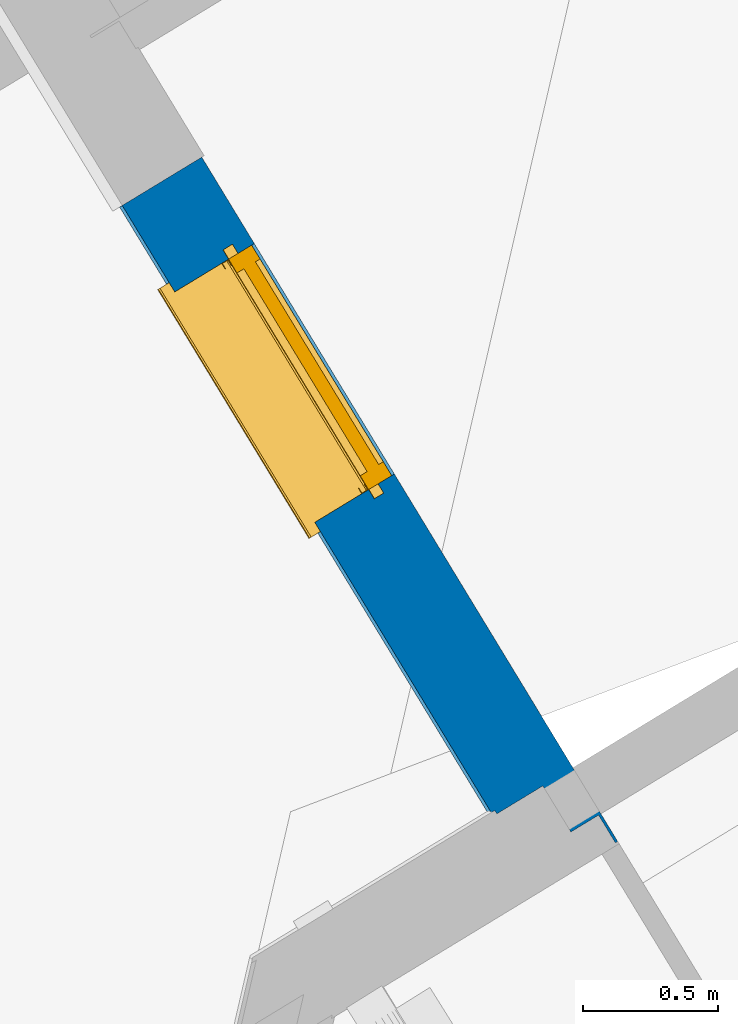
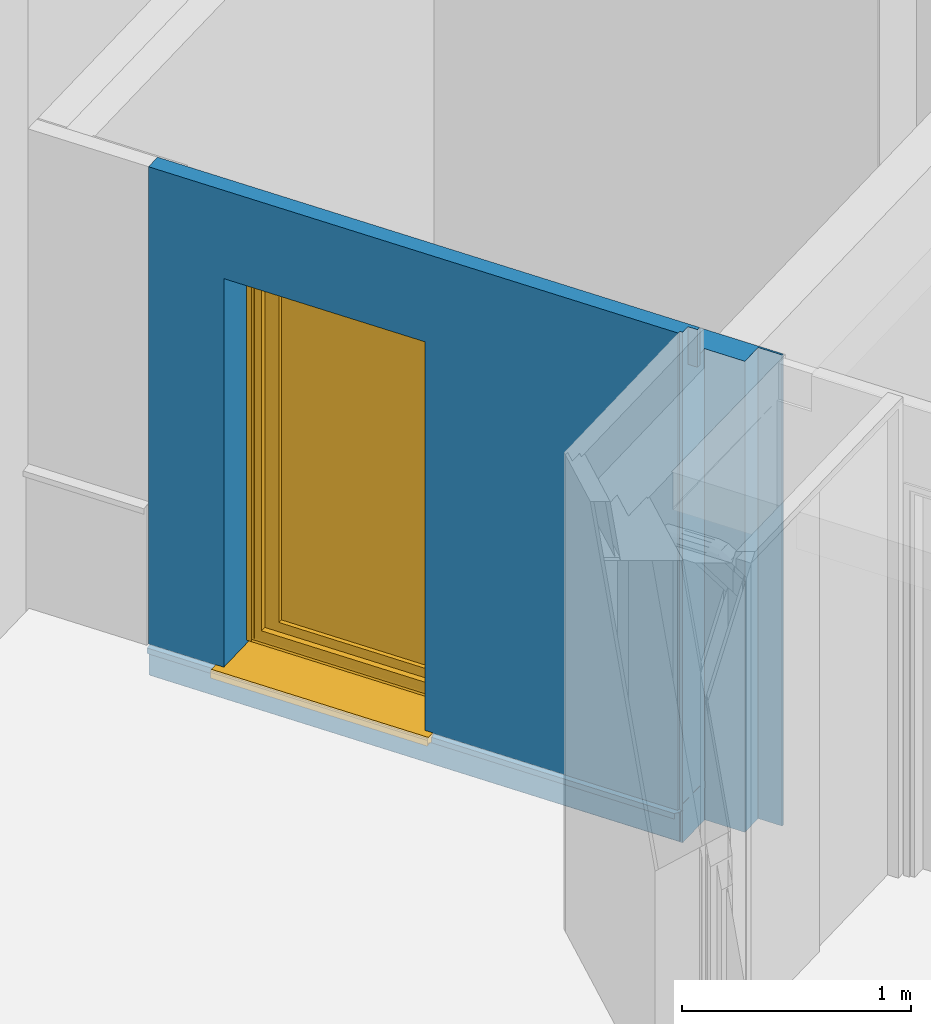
# One storey, part 31 of 119: 1 wall, 1 window, 1 opening.
"""IFC2X3 building model written with IfcOpenShell, lengths in metres."""

from ifc_helpers import new_model, entity, si_unit, converted_unit, derived_unit, money_unit, direction, frame, origin_with_axes, place, context, subcontext, project, spatial, open_shell, faceted_brep, surface_model, source, transform, mapped, material, material_list, type_object, element, fill, save


model = new_model("IFC2X3")

# Units and contexts
model_context = context("Model", 3, precision=1e-05, world=origin_with_axes(), true_north=direction((0.0, 1.0)))
body_context = subcontext(model_context, "Body", "Model", "MODEL_VIEW")
ifc_project = project(units=[si_unit("LENGTHUNIT", "METRE"), si_unit("AREAUNIT", "SQUARE_METRE"), si_unit("VOLUMEUNIT", "CUBIC_METRE"), converted_unit("PLANEANGLEUNIT", "DEGREE", entity("IfcPlaneAngleMeasure", 0.0174532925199), si_unit("PLANEANGLEUNIT", "RADIAN"), dimensions=[0, 0, 0, 0, 0, 0, 0]), si_unit("SOLIDANGLEUNIT", "STERADIAN"), money_unit("EUR"), converted_unit("TIMEUNIT", "Year", entity("IfcTimeMeasure", 31556926.0), si_unit("TIMEUNIT", "SECOND"), dimensions=[0, 0, 1, 0, 0, 0, 0]), si_unit("MASSUNIT", "GRAM", prefix="KILO"), si_unit("THERMODYNAMICTEMPERATUREUNIT", "DEGREE_CELSIUS"), si_unit("LUMINOUSINTENSITYUNIT", "LUMEN"), si_unit("ENERGYUNIT", "JOULE", prefix="MEGA"), derived_unit("THERMALCONDUCTANCEUNIT", [(si_unit("POWERUNIT", "WATT"), 1), (si_unit("LENGTHUNIT", "METRE"), -1), (si_unit("THERMODYNAMICTEMPERATUREUNIT", "KELVIN"), -1)]), derived_unit("SPECIFICHEATCAPACITYUNIT", [(si_unit("ENERGYUNIT", "JOULE"), 1), (si_unit("MASSUNIT", "GRAM", prefix="KILO"), -1), (si_unit("THERMODYNAMICTEMPERATUREUNIT", "KELVIN"), -1)]), derived_unit("MASSDENSITYUNIT", [(si_unit("MASSUNIT", "GRAM", prefix="KILO"), 1), (si_unit("VOLUMEUNIT", "CUBIC_METRE"), -1)])], contexts=[model_context])

# Site, building, storey
site_placement = place(None, origin_with_axes())
site = spatial("IfcSite", under=ifc_project, at=site_placement, Name="Site", CompositionType="ELEMENT")
building_placement = place(site_placement, origin_with_axes())
building = spatial("IfcBuilding", under=site, at=building_placement, Name="Bâtiment", CompositionType="ELEMENT")
storey_placement = place(building_placement, origin_with_axes())
storey = spatial("IfcBuildingStorey", under=building, at=storey_placement, Name="Rez-de-chaussée", CompositionType="ELEMENT", Elevation=0.0)

# Wall, opening, window
ifc_material_1 = material(Name="Finition int - Plaque de plâtre")
ifc_material_2 = material(Name="Isolation - Polystyrène extrudé")
ifc_material_3 = material(Name="Bloc ELITHERM")
ifc_material_4 = material(Name="Isolation - Polystyrène expansé")
ifc_material_5 = material(Name="Mortier")
ifc_material_6 = material(Name="Béton cellulaire")
ifc_material_7 = material(Name="Etanchéité - Bitume")
ifc_material_8 = material(Name="Finition ext - Crépis")
ifc_material_9 = material(Name="Métal - Aluminium")
ifc_material_list = material_list([ifc_material_1, ifc_material_2, ifc_material_3, ifc_material_4, ifc_material_5, ifc_material_6, ifc_material_7, ifc_material_8, ifc_material_9])
wall_type = type_object("IfcWallType", Name="Mur ALKERN + planelle 21 TERRASSE RDC 356 x 2720", PredefinedType="USERDEFINED")
wall_placement = place(storey_placement, frame((-7.34728944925, 20.4224753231, 0.0), z_axis=(0.0, 0.0, 1.0), x_axis=(0.519386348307, -0.854539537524, 0.0)))
wall = element("IfcWall", 1, at=wall_placement, inside=storey, type_object=wall_type, material=ifc_material_list, Name="Mue bloc ALKERN isolé", ObjectType="SOLIDWALL", context=body_context, shape_type="Brep", body=[
    faceted_brep([(2.9696324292, 0.359999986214, 0.0), (0.0, 0.359999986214, 0.0), (0.0, 0.359999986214, 2.50955001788), (2.9696324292, 0.359999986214, 2.50955001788), (0.37500000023, 0.359999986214, 2.43), (0.37500000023, 0.359999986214, 2.25), (0.37500000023, 0.359999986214, 0.2), (1.37500000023, 0.359999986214, 0.2), (1.37500000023, 0.359999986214, 2.25), (1.37500000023, 0.359999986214, 2.43), (2.9696324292, 0.350000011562, 0.0), (0.0, 0.350000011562, 0.0), (0.0, 0.350000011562, 2.50955001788), (2.9696324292, 0.350000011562, 2.50955001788), (0.37500000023, 0.350000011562, 2.43), (0.37500000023, 0.350000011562, 2.25), (0.37500000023, 0.350000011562, 0.2), (1.37500000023, 0.350000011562, 0.2), (1.37500000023, 0.350000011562, 2.25), (1.37500000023, 0.350000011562, 2.43)], [[[0, 1, 2, 3], [4, 5, 6, 7, 8, 9]], [[10, 11, 1, 0]], [[12, 2, 1, 11]], [[3, 2, 12, 13]], [[13, 10, 0, 3]], [[5, 4, 14, 15, 16, 6]], [[6, 16, 17, 7]], [[18, 19, 9, 8, 7, 17]], [[4, 9, 19, 14]], [[11, 10, 13, 12], [19, 18, 17, 16, 15, 14]]]),
    faceted_brep([(0.37500000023, 0.289560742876, 0.2), (1.37500000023, 0.289560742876, 0.2), (1.37500000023, 0.350000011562, 0.2), (0.37500000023, 0.350000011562, 0.2), (0.37500000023, 0.289560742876, 0.14), (1.37500000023, 0.289560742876, 0.14), (1.37500000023, 0.22999997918, 0.14), (1.37500000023, 0.22999997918, 0.2), (1.37500000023, 0.22999997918, 2.25), (1.37500000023, 0.22999997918, 2.43), (1.37500000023, 0.350000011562, 2.43), (1.37500000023, 0.350000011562, 2.25), (0.0, 0.350000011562, 2.50955001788), (2.84963239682, 0.350000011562, 2.50955001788), (2.84963239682, 0.350000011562, 0.0), (0.0, 0.350000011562, 0.0), (0.37500000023, 0.350000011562, 2.43), (0.37500000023, 0.350000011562, 2.25), (0.37500000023, 0.22999997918, 0.2), (0.37500000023, 0.22999997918, 0.14), (0.37500000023, 0.22999997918, 2.43), (0.37500000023, 0.22999997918, 2.25), (2.84963239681, 0.22999997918, 2.50955001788), (0.0, 0.22999997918, 2.50955001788), (0.0, 0.22999997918, 0.0), (2.84963239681, 0.22999997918, 0.0)], [[[0, 1, 2, 3]], [[1, 0, 4, 5]], [[1, 5, 6, 7, 8, 9, 10, 11, 2]], [[12, 13, 14, 15], [2, 11, 10, 16, 17, 3]], [[18, 19, 4, 0, 3, 17, 16, 20, 21]], [[19, 6, 5, 4]], [[22, 23, 24, 25], [19, 18, 21, 20, 9, 8, 7, 6]], [[10, 9, 20, 16]], [[23, 22, 13, 12]], [[14, 13, 22, 25]], [[15, 14, 25, 24]], [[24, 23, 12, 15]]]),
    faceted_brep([(2.64963241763, 0.229999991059, 2.50955001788), (2.64963241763, 0.229999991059, 0.207793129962), (2.65067779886, 0.229999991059, 0.207793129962), (2.65067779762, 0.229999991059, 0.169727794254), (2.64963241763, 0.229999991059, 0.169414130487), (2.64963242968, 0.229999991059, 0.160000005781), (2.64963241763, 0.229999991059, 0.0), (0.0, 0.229999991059, 0.0), (0.0, 0.229999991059, 2.50955001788), (0.37500000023, 0.229999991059, 0.14), (1.37500000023, 0.229999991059, 0.14), (1.37500000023, 0.229999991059, 0.2), (1.37500000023, 0.229999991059, 2.25), (1.37500000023, 0.229999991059, 2.43), (0.37500000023, 0.229999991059, 2.43), (0.37500000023, 0.229999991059, 2.25), (0.37500000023, 0.229999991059, 0.2), (2.64963241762, 0.03, 2.50955001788), (2.64963241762, 0.03, 0.207793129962), (2.64963241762, 0.0310453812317, 0.207793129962), (2.64963241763, 0.0979999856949, 2.50955001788), (2.65067779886, 0.0310453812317, 0.207793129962), (2.65067779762, 0.0310453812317, 0.169727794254), (2.64963241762, 0.03, 0.169414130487), (2.64963242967, 0.0300000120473, 0.160000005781), (2.64963241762, 0.03, 0.0), (0.0, 0.03, 0.0), (0.0, 0.0300000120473, 0.160000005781), (0.0, 0.03, 0.169414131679), (0.0, 0.0310453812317, 0.169727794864), (0.0, 0.0310453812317, 0.207793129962), (0.0, 0.03, 0.207793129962), (0.0, 0.03, 2.50955001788), (0.0, 0.0979999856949, 2.50955001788), (0.37500000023, 0.0300000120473, 0.14), (1.37500000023, 0.0300000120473, 0.14), (1.37500000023, 0.0300000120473, 0.160000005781), (1.37500000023, 0.03, 0.16941413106), (1.37500000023, 0.0310453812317, 0.169727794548), (1.37500000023, 0.0310453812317, 0.2), (1.37500000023, 0.0310453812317, 0.207793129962), (1.37500000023, 0.03, 0.207793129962), (1.37500000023, 0.03, 2.25), (1.37500000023, 0.218560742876, 2.25), (1.37500000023, 0.218560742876, 2.43), (0.37500000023, 0.218560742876, 2.43), (0.37500000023, 0.0310453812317, 0.2), (0.37500000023, 0.0310453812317, 0.169727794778), (0.37500000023, 0.03, 0.16941413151), (0.37500000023, 0.0300000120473, 0.160000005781), (0.37500000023, 0.218560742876, 2.25), (0.37500000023, 0.03, 2.25), (0.37500000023, 0.03, 0.207793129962), (0.37500000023, 0.0310453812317, 0.207793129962)], [[[0, 1, 2, 3, 4, 5, 6, 7, 8], [9, 10, 11, 12, 13, 14, 15, 16]], [[17, 18, 19, 1, 0, 20]], [[19, 21, 2, 1]], [[2, 21, 22, 3]], [[3, 22, 23, 4]], [[23, 24, 5, 4]], [[6, 5, 24, 25]], [[6, 25, 26, 7]], [[27, 28, 29, 30, 31, 32, 33, 8, 7, 26]], [[33, 20, 0, 8]], [[10, 9, 34, 35]], [[11, 10, 35, 36, 37, 38, 39, 40, 41, 42, 43, 44, 13, 12]], [[13, 44, 45, 14]], [[46, 47, 48, 49, 34, 9, 16, 15, 14, 45, 50, 51, 52, 53]], [[18, 17, 32, 31, 52, 51, 42, 41]], [[19, 18, 41, 40]], [[32, 17, 20, 33]], [[39, 38, 22, 21, 19, 40]], [[38, 37, 23, 22]], [[37, 36, 24, 23]], [[34, 49, 27, 26, 25, 24, 36, 35]], [[49, 48, 28, 27]], [[48, 47, 29, 28]], [[47, 46, 53, 30, 29]], [[31, 30, 53, 52]], [[43, 42, 51, 50]], [[50, 45, 44, 43]]]),
    faceted_brep([(0.0, 0.0780000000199, 2.72), (2.69763241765, 0.0780000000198, 2.72), (2.69763241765, 0.0980000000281, 2.72), (0.0, 0.0980000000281, 2.72), (0.0, 0.0780000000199, 2.51999999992), (2.69763241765, 0.0780000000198, 2.51999999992), (2.69763241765, 0.0980000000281, 2.51999999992), (0.0, 0.0980000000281, 2.51999999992)], [[[0, 1, 2, 3]], [[4, 5, 1, 0]], [[5, 6, 2, 1]], [[3, 2, 6, 7]], [[3, 7, 4, 0]], [[7, 6, 5, 4]]]),
    faceted_brep([(2.64963241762, 0.03, 2.52), (2.64963241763, 0.098, 2.52), (0.0, 0.098, 2.52), (0.0, 0.03, 2.52), (2.64963241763, 0.098, 2.50955), (2.64963241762, 0.03, 2.50955), (0.0, 0.098, 2.50955), (0.0, 0.03, 2.50955)], [[[0, 1, 2, 3]], [[4, 1, 0, 5]], [[1, 4, 6, 2]], [[7, 3, 2, 6]], [[5, 0, 3, 7]], [[4, 5, 7, 6]]]),
    faceted_brep([(2.64963241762, 0.03, 2.72), (2.64963241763, 0.0780000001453, 2.72), (0.0, 0.0780000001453, 2.72), (0.0, 0.03, 2.72), (2.64963241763, 0.0780000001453, 2.51999999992), (2.64963241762, 0.03, 2.51999999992), (0.0, 0.0780000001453, 2.51999999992), (0.0, 0.03, 2.51999999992)], [[[0, 1, 2, 3]], [[4, 1, 0, 5]], [[1, 4, 6, 2]], [[3, 2, 6, 7]], [[5, 0, 3, 7]], [[4, 5, 7, 6]]]),
    faceted_brep([(0.37500000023, 0.0300001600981, 0.14), (1.37500000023, 0.030000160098, 0.14), (1.37500000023, 0.0300000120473, 0.160000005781), (2.63963241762, 0.0300000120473, 0.160000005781), (2.63963241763, 0.030000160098, 0.01), (0.0, 0.0300000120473, 0.01), (0.0, 0.0300000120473, 0.160000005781), (0.37500000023, 0.0300000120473, 0.160000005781), (0.37500000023, 0.02, 0.14), (1.37500000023, 0.02, 0.14), (1.37500000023, 0.02, 0.160000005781), (2.63963241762, 0.02, 0.160000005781), (2.63963241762, 0.02, 0.01), (0.0, 0.02, 0.01), (0.0, 0.02, 0.160000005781), (0.37500000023, 0.02, 0.160000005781)], [[[0, 1, 2, 3, 4, 5, 6, 7]], [[1, 0, 8, 9]], [[10, 2, 1, 9]], [[2, 10, 11, 3]], [[4, 3, 11, 12]], [[4, 12, 13, 5]], [[13, 14, 6, 5]], [[15, 7, 6, 14]], [[0, 7, 15, 8]], [[8, 15, 14, 13, 12, 11, 10, 9]]]),
    faceted_brep([(0.37500000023, 0.0150000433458, 0.2), (0.37500000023, 0.0150000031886, 0.176532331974), (0.37500000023, 0.0300000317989, 0.176532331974), (0.37500000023, 0.0300000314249, 0.2), (0.37500000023, 0.0299999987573, 2.25), (0.37500000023, 0.0150000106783, 2.25), (1.37500000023, 0.0150000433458, 0.2), (1.37500000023, 0.0150000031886, 0.176532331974), (2.63463242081, 0.0150000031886, 0.176532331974), (2.63463242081, 0.0150000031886, 2.72), (0.0, 0.0150000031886, 2.72), (0.0, 0.0150000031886, 0.176532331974), (1.37500000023, 0.0150000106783, 2.25), (0.0, 0.0300000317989, 0.176532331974), (1.37500000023, 0.0300000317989, 0.176532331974), (1.37500000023, 0.0300000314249, 0.2), (1.37500000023, 0.0299999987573, 2.25), (0.0, 0.0299999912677, 2.72), (2.63463242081, 0.0299999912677, 2.72), (2.63463242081, 0.0300000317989, 0.176532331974)], [[[0, 1, 2, 3, 4, 5]], [[6, 7, 8, 9, 10, 11, 1, 0, 5, 12]], [[2, 1, 11, 13]], [[14, 15, 16, 4, 3, 2, 13, 17, 18, 19]], [[16, 12, 5, 4]], [[15, 14, 7, 6, 12, 16]], [[7, 14, 19, 8]], [[9, 8, 19, 18]], [[18, 17, 10, 9]], [[10, 17, 13, 11]]]),
    faceted_brep([(1.37500000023, 0.0310453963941, 0.169727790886), (1.37500000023, 0.0310453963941, 0.2), (1.37500000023, 0.0310453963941, 0.207793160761), (2.64963241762, 0.0310453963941, 0.207793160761), (2.64963244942, 0.0310453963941, 0.176532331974), (2.64963241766, 0.0310453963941, 0.17077486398), (2.6461029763, 0.0310453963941, 0.169727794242), (1.37500000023, 0.0300000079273, 0.2), (1.37500000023, 0.03, 0.169414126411), (1.37500000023, 0.00479482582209, 0.161852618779), (1.37500000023, 0.00479482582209, 0.14), (1.37500000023, 0.0035607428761, 0.14), (1.37500000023, 0.0035607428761, 0.162931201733), (1.37500000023, 0.03, 0.170774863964), (1.37500000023, 0.0300000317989, 0.176532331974), (1.37500000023, 0.03, 0.207793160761), (2.64963241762, 0.03, 0.207793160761), (2.64963244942, 0.0300000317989, 0.176532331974), (2.64963241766, 0.03, 0.17077486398), (2.64504565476, 0.0254132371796, 0.169414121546), (2.64504565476, 0.03, 0.169414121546), (2.6231931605, 0.00839012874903, 0.162931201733), (2.6231931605, 0.00479482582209, 0.161852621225), (2.6231931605, 0.00479482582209, 0.160000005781), (2.6231931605, 0.00479482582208, 0.133633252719), (0.0, 0.00479482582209, 0.133633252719), (0.0, 0.00479482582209, 0.161852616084), (0.37500000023, 0.00479482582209, 0.161852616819), (0.37500000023, 0.00479482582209, 0.14), (0.37500000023, 0.0035607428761, 0.14), (0.37500000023, 0.0035607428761, 0.162931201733), (0.0, 0.0035607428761, 0.162931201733), (0.0, 0.0035607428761, 0.133633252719), (2.6231931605, 0.0035607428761, 0.133633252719), (2.6231931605, 0.0035607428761, 0.160000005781), (2.6231931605, 0.0035607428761, 0.162931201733), (0.0, 0.03, 0.207793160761), (0.0, 0.0310453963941, 0.207793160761), (0.0, 0.0310453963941, 0.169727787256), (0.0, 0.03, 0.169414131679), (0.0, 0.03, 0.170774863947), (0.0, 0.0300000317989, 0.176532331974), (0.37500000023, 0.03, 0.169414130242), (0.37500000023, 0.0310453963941, 0.169727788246), (0.37500000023, 0.0310453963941, 0.2), (0.37500000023, 0.0300000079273, 0.2), (0.37500000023, 0.0300000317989, 0.176532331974), (0.37500000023, 0.03, 0.170774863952), (0.37500000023, 0.0310453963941, 0.207793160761), (0.37500000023, 0.03, 0.207793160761)], [[[0, 1, 2, 3, 4, 5, 6]], [[7, 1, 0, 8, 9, 10, 11, 12, 13, 14]], [[1, 7, 15, 2]], [[15, 16, 3, 2]], [[16, 17, 4, 3]], [[18, 5, 4, 17]], [[6, 5, 18, 19, 20]], [[8, 0, 6, 20]], [[9, 8, 20, 21, 22]], [[10, 9, 22, 23, 24, 25, 26, 27, 28]], [[10, 28, 29, 11]], [[29, 30, 31, 32, 33, 34, 35, 12, 11]], [[13, 12, 35, 19, 18]], [[14, 13, 18, 17]], [[7, 14, 17, 16, 15]], [[35, 21, 20, 19]], [[21, 35, 34, 23, 22]], [[33, 24, 23, 34]], [[33, 32, 25, 24]], [[36, 37, 38, 39, 26, 25, 32, 31, 40, 41]], [[42, 27, 26, 39]], [[43, 44, 45, 46, 47, 30, 29, 28, 27, 42]], [[30, 47, 40, 31]], [[48, 37, 36, 49]], [[44, 43, 38, 37, 48]], [[43, 42, 39, 38]], [[47, 46, 41, 40]], [[46, 45, 49, 36, 41]], [[45, 44, 48, 49]]]),
])
opening_placement = place(wall_placement, frame((0.87500000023, 0.0, 0.2), z_axis=(0.0, 0.0, 1.0), x_axis=(1.0, 0.0, 0.0)))
opening = element("IfcOpeningElement", 2, at=opening_placement, cuts=wall, Name="MEN 09", context=body_context, shape_type="Brep", body=[
    faceted_brep([(-0.5, 0.849999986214, 0.0), (0.5, 0.849999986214, 0.0), (0.5, 0.248560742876, 0.0), (-0.5, 0.248560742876, 0.0), (-0.5, 0.849999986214, 2.05), (0.5, 0.849999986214, 2.05), (0.5, 0.248560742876, 2.05), (-0.5, 0.248560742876, 2.05)], [[[0, 1, 2, 3]], [[0, 4, 5, 1]], [[1, 5, 6, 2]], [[3, 2, 6, 7]], [[4, 0, 3, 7]], [[5, 4, 7, 6]]]),
    faceted_brep([(-0.5, -0.352878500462, 0.0), (-0.5, -0.352878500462, 2.05), (-0.5, 0.248560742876, 2.05), (-0.5, 0.248560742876, 0.0), (0.5, -0.352878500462, 0.0), (0.5, -0.352878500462, 2.05), (0.5, 0.248560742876, 2.05), (0.5, 0.248560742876, 0.0)], [[[0, 1, 2, 3]], [[0, 4, 5, 1]], [[1, 5, 6, 2]], [[3, 2, 6, 7]], [[4, 0, 3, 7]], [[5, 4, 7, 6]]]),
    faceted_brep([(-0.5, -0.352878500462, 0.0), (-0.5, -0.352878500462, 2.05), (-0.5, 0.248560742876, 2.05), (-0.5, 0.248560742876, 0.0), (0.5, -0.352878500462, 0.0), (0.5, -0.352878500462, 2.05), (0.5, 0.248560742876, 2.05), (0.5, 0.248560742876, 0.0)], [[[0, 1, 2, 3]], [[0, 4, 5, 1]], [[1, 5, 6, 2]], [[3, 2, 6, 7]], [[4, 0, 3, 7]], [[5, 4, 7, 6]]]),
    faceted_brep([(-0.5, 0.819999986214, 2.05), (0.5, 0.819999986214, 2.05), (0.5, 0.218560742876, 2.05), (-0.5, 0.218560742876, 2.05), (-0.5, 0.819999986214, 2.23), (0.5, 0.819999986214, 2.23), (0.5, 0.218560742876, 2.23), (-0.5, 0.218560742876, 2.23)], [[[0, 1, 2, 3]], [[0, 4, 5, 1]], [[1, 5, 6, 2]], [[3, 2, 6, 7]], [[4, 0, 3, 7]], [[5, 4, 7, 6]]]),
    faceted_brep([(-0.5, -0.311878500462, 0.0), (0.5, -0.311878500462, 0.0), (0.5, 0.289560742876, 0.0), (-0.5, 0.289560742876, 0.0), (-0.5, -0.311878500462, -0.06), (0.5, -0.311878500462, -0.06), (0.5, 0.289560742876, -0.06), (-0.5, 0.289560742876, -0.06)], [[[0, 1, 2, 3]], [[0, 4, 5, 1]], [[1, 5, 6, 2]], [[3, 2, 6, 7]], [[4, 0, 3, 7]], [[5, 4, 7, 6]]]),
])
window_style = type_object("IfcWindowStyle", Name="Baie générique 2017 v2", ConstructionType="NOTDEFINED", OperationType="NOTDEFINED", ParameterTakesPrecedence=False, Sizeable=False)
shared_shape = source(origin_with_axes(), body_context, "Body", "SurfaceModel", [
    faceted_brep([(-0.5, 0.1, 0.0), (0.5, 0.1, 0.0), (0.5, 0.0, 0.0), (-0.5, 0.0, 0.0), (-0.5, 0.1, 2.05), (0.5, 0.1, 2.05), (-0.44, 0.1, 0.05), (0.44, 0.1, 0.05), (0.44, 0.1, 2.0), (-0.44, 0.1, 2.0), (0.5, 0.0, 2.05), (-0.5, 0.0, 2.05), (-0.44, 0.0, 0.05), (-0.44, 0.0, 2.0), (0.44, 0.0, 2.0), (0.44, 0.0, 0.05)], [[[0, 1, 2, 3]], [[0, 4, 5, 1], [6, 7, 8, 9]], [[1, 5, 10, 2]], [[3, 2, 10, 11], [12, 13, 14, 15]], [[4, 0, 3, 11]], [[5, 4, 11, 10]], [[7, 6, 12, 15]], [[8, 7, 15, 14]], [[9, 8, 14, 13]], [[6, 9, 13, 12]]]),
    faceted_brep([(0.44, 0.08, 2.0), (0.44, 0.08, 0.05), (-0.44, 0.08, 0.05), (-0.44, 0.08, 2.0), (0.37, 0.08, 1.93), (-0.37, 0.08, 1.93), (-0.37, 0.08, 0.1), (0.37, 0.08, 0.1), (0.44, 0.03, 2.0), (0.44, 0.03, 0.05), (-0.44, 0.03, 0.05), (-0.44, 0.03, 2.0), (0.37, 0.03, 1.93), (-0.37, 0.03, 1.93), (-0.37, 0.03, 0.1), (0.37, 0.03, 0.1)], [[[0, 1, 2, 3], [4, 5, 6, 7]], [[1, 0, 8, 9]], [[10, 2, 1, 9]], [[11, 3, 2, 10]], [[0, 3, 11, 8]], [[5, 4, 12, 13]], [[14, 6, 5, 13]], [[15, 7, 6, 14]], [[4, 7, 15, 12]], [[11, 10, 9, 8], [15, 14, 13, 12]]]),
    surface_model("IfcShellBasedSurfaceModel", [(-0.44, 0.08, 0.05), (-0.44, 0.055, 0.05), (-0.44, 0.055, 2.0), (-0.44, 0.08, 2.0)], [open_shell([[[0, 1, 2, 3]]])]),
    surface_model("IfcShellBasedSurfaceModel", [(0.44, 0.08, 0.05), (0.44, 0.055, 0.05), (0.44, 0.055, 2.0), (0.44, 0.08, 2.0)], [open_shell([[[0, 1, 2, 3]]])]),
    surface_model("IfcShellBasedSurfaceModel", [(-0.44, 0.08, 0.05), (-0.44, 0.055, 0.05), (0.44, 0.055, 0.05), (0.44, 0.08, 0.05)], [open_shell([[[0, 1, 2, 3]]])]),
    surface_model("IfcShellBasedSurfaceModel", [(-0.44, 0.08, 2.0), (-0.44, 0.055, 2.0), (0.44, 0.055, 2.0), (0.44, 0.08, 2.0)], [open_shell([[[0, 1, 2, 3]]])]),
    surface_model("IfcShellBasedSurfaceModel", [(-0.44, 0.055, 0.05), (-0.44, 0.03, 0.05), (-0.44, 0.03, 2.0), (-0.44, 0.055, 2.0)], [open_shell([[[0, 1, 2, 3]]])]),
    surface_model("IfcShellBasedSurfaceModel", [(0.44, 0.055, 0.05), (0.44, 0.03, 0.05), (0.44, 0.03, 2.0), (0.44, 0.055, 2.0)], [open_shell([[[0, 1, 2, 3]]])]),
    surface_model("IfcShellBasedSurfaceModel", [(-0.44, 0.055, 0.05), (-0.44, 0.03, 0.05), (0.44, 0.03, 0.05), (0.44, 0.055, 0.05)], [open_shell([[[0, 1, 2, 3]]])]),
    surface_model("IfcShellBasedSurfaceModel", [(-0.44, 0.055, 2.0), (-0.44, 0.03, 2.0), (0.44, 0.03, 2.0), (0.44, 0.055, 2.0)], [open_shell([[[0, 1, 2, 3]]])]),
    faceted_brep([(-0.37, 0.0575, 0.1), (0.37, 0.0575, 0.1), (0.37, 0.0525, 0.1), (-0.37, 0.0525, 0.1), (-0.37, 0.0575, 1.93), (0.37, 0.0575, 1.93), (0.37, 0.0525, 1.93), (-0.37, 0.0525, 1.93)], [[[0, 1, 2, 3]], [[0, 4, 5, 1]], [[1, 5, 6, 2]], [[3, 2, 6, 7]], [[4, 0, 3, 7]], [[5, 4, 7, 6]]]),
    faceted_brep([(-0.5, -0.03, 0.0), (-0.475, -0.03, 0.0), (-0.475, -0.03, 2.05), (-0.5, -0.03, 2.05), (-0.5, -0.002, 0.0), (-0.475, -0.002, 0.0), (-0.475, -0.004, 0.0), (-0.498, -0.004, 0.0), (-0.498, -0.028, 0.0), (-0.475, -0.028, 0.0), (-0.475, -0.028, 2.05), (-0.498, -0.028, 2.05), (-0.498, -0.004, 2.05), (-0.475, -0.004, 2.05), (-0.475, -0.002, 2.05), (-0.5, -0.002, 2.05)], [[[0, 1, 2, 3]], [[0, 4, 5, 6, 7, 8, 9, 1]], [[1, 9, 10, 2]], [[3, 2, 10, 11, 12, 13, 14, 15]], [[4, 0, 3, 15]], [[5, 4, 15, 14]], [[6, 5, 14, 13]], [[7, 6, 13, 12]], [[8, 7, 12, 11]], [[9, 8, 11, 10]]]),
    faceted_brep([(0.5, -0.03, 0.0), (0.5, -0.03, 2.05), (0.475, -0.03, 2.05), (0.475, -0.03, 0.0), (0.5, -0.002, 0.0), (0.5, -0.002, 2.05), (0.475, -0.002, 2.05), (0.475, -0.004, 2.05), (0.498, -0.004, 2.05), (0.498, -0.028, 2.05), (0.475, -0.028, 2.05), (0.475, -0.028, 0.0), (0.498, -0.028, 0.0), (0.498, -0.004, 0.0), (0.475, -0.004, 0.0), (0.475, -0.002, 0.0)], [[[0, 1, 2, 3]], [[4, 5, 1, 0]], [[1, 5, 6, 7, 8, 9, 10, 2]], [[3, 2, 10, 11]], [[0, 3, 11, 12, 13, 14, 15, 4]], [[15, 6, 5, 4]], [[14, 7, 6, 15]], [[13, 8, 7, 14]], [[12, 9, 8, 13]], [[11, 10, 9, 12]]]),
    faceted_brep([(0.498, -0.028, 2.05), (-0.498, -0.028, 2.05), (-0.498, -0.028, 2.228), (0.498, -0.028, 2.228), (0.498, -0.03, 2.05), (-0.498, -0.03, 2.05), (-0.498, -0.03, 2.23), (-0.498, 0.17, 2.23), (-0.498, 0.17, 2.05), (-0.498, 0.168, 2.05), (-0.498, 0.168, 2.228), (0.498, 0.168, 2.228), (0.498, 0.168, 2.05), (0.498, 0.17, 2.05), (0.498, 0.17, 2.23), (0.498, -0.03, 2.23)], [[[0, 1, 2, 3]], [[4, 5, 1, 0]], [[1, 5, 6, 7, 8, 9, 10, 2]], [[3, 2, 10, 11]], [[0, 3, 11, 12, 13, 14, 15, 4]], [[15, 6, 5, 4]], [[14, 7, 6, 15]], [[13, 8, 7, 14]], [[12, 9, 8, 13]], [[11, 10, 9, 12]]]),
    faceted_brep([(0.498, 0.0724697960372, 2.12436337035), (0.498, 0.08, 2.14), (0.498, 0.0724697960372, 2.15563662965), (0.498, 0.0555495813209, 2.15949855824), (0.498, 0.041980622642, 2.14867767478), (0.498, 0.041980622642, 2.13132232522), (0.498, 0.0555495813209, 2.12050144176), (-0.498, 0.0724697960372, 2.12436337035), (-0.498, 0.08, 2.14), (-0.498, 0.0724697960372, 2.15563662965), (-0.498, 0.0555495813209, 2.15949855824), (-0.498, 0.041980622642, 2.14867767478), (-0.498, 0.041980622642, 2.13132232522), (-0.498, 0.0555495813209, 2.12050144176)], [[[0, 1, 2, 3, 4, 5, 6]], [[0, 7, 8, 1]], [[1, 8, 9, 2]], [[2, 9, 10, 3]], [[3, 10, 11, 4]], [[4, 11, 12, 5]], [[5, 12, 13, 6]], [[6, 13, 7, 0]], [[7, 13, 12, 11, 10, 9, 8]]]),
    faceted_brep([(0.488, 0.130275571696, 2.10615706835), (0.488, 0.138, 2.14), (0.488, 0.130275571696, 2.17384293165), (0.488, 0.108632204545, 2.20098285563), (0.488, 0.0773566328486, 2.21604437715), (0.488, 0.0426433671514, 2.21604437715), (0.488, 0.011367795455, 2.20098285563), (0.488, -0.0102755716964, 2.17384293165), (0.488, -0.018, 2.14), (0.488, -0.0102755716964, 2.10615706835), (0.488, 0.011367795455, 2.07901714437), (0.488, 0.0426433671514, 2.06395562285), (0.488, 0.0773566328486, 2.06395562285), (0.488, 0.108632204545, 2.07901714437), (-0.488, 0.130275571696, 2.10615706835), (-0.488, 0.138, 2.14), (-0.488, 0.130275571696, 2.17384293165), (-0.488, 0.108632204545, 2.20098285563), (-0.488, 0.0773566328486, 2.21604437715), (-0.488, 0.0426433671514, 2.21604437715), (-0.488, 0.011367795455, 2.20098285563), (-0.488, -0.0102755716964, 2.17384293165), (-0.488, -0.018, 2.14), (-0.488, -0.0102755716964, 2.10615706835), (-0.488, 0.011367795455, 2.07901714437), (-0.488, 0.0426433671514, 2.06395562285), (-0.488, 0.0773566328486, 2.06395562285), (-0.488, 0.108632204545, 2.07901714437)], [[[0, 1, 2, 3, 4, 5, 6, 7, 8, 9, 10, 11, 12, 13]], [[0, 14, 15, 1]], [[1, 15, 16, 2]], [[2, 16, 17, 3]], [[3, 17, 18, 4]], [[4, 18, 19, 5]], [[5, 19, 20, 6]], [[6, 20, 21, 7]], [[7, 21, 22, 8]], [[8, 22, 23, 9]], [[9, 23, 24, 10]], [[10, 24, 25, 11]], [[11, 25, 26, 12]], [[12, 26, 27, 13]], [[13, 27, 14, 0]], [[14, 27, 26, 25, 24, 23, 22, 21, 20, 19, 18, 17, 16, 15]]]),
    faceted_brep([(0.5, 0.17, 2.05), (0.498, 0.17, 2.05), (0.498, 0.17, 2.23), (0.5, 0.17, 2.23), (0.5, -0.03, 2.05), (0.498, -0.03, 2.05), (0.498, -0.03, 2.23), (0.5, -0.03, 2.23)], [[[0, 1, 2, 3]], [[4, 5, 1, 0]], [[1, 5, 6, 2]], [[3, 2, 6, 7]], [[0, 3, 7, 4]], [[7, 6, 5, 4]]]),
    faceted_brep([(-0.498, 0.17, 2.05), (-0.5, 0.17, 2.05), (-0.5, 0.17, 2.23), (-0.498, 0.17, 2.23), (-0.498, -0.03, 2.05), (-0.5, -0.03, 2.05), (-0.5, -0.03, 2.23), (-0.498, -0.03, 2.23)], [[[0, 1, 2, 3]], [[4, 5, 1, 0]], [[1, 5, 6, 2]], [[3, 2, 6, 7]], [[0, 3, 7, 4]], [[7, 6, 5, 4]]]),
    faceted_brep([(0.498, -0.004, 2.05), (-0.498, -0.004, 2.05), (-0.498, 0.168, 2.05), (0.498, 0.168, 2.05), (0.498, -0.004, 2.052), (-0.498, -0.004, 2.052), (-0.498, 0.168, 2.052), (0.498, 0.168, 2.052)], [[[0, 1, 2, 3]], [[4, 5, 1, 0]], [[1, 5, 6, 2]], [[3, 2, 6, 7]], [[0, 3, 7, 4]], [[7, 6, 5, 4]]]),
    faceted_brep([(-0.488, -0.006, 2.05), (-0.488, -0.006, 2.14), (0.488, -0.006, 2.14), (0.488, -0.006, 2.05), (-0.488, -0.026, 2.05), (-0.488, -0.026, 2.14), (0.488, -0.026, 2.14), (0.488, -0.026, 2.05)], [[[0, 1, 2, 3]], [[1, 0, 4, 5]], [[2, 1, 5, 6]], [[3, 2, 6, 7]], [[4, 0, 3, 7]], [[5, 4, 7, 6]]]),
    faceted_brep([(0.5, -0.00167949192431, -0.01), (0.5, 0.0, -0.00373205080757), (0.54, 0.0, -0.00373205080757), (0.54, 0.001, 0.0), (-0.54, 0.001, 0.0), (-0.54, 0.0, -0.00373205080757), (-0.5, 0.0, -0.00373205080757), (-0.5, -0.00167949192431, -0.01), (0.5, -0.009, -0.0173205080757), (0.5, -0.019, -0.02), (0.5, -0.233560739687, -0.02), (0.5, -0.233560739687, -0.06), (0.5, 0.0, -0.06), (0.54, 0.0, -0.06), (0.54, 0.041, -0.06), (0.54, 0.041, 0.0), (-0.54, 0.041, 0.0), (-0.54, 0.041, -0.06), (-0.54, 0.0, -0.06), (-0.5, 0.0, -0.06), (-0.5, -0.233560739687, -0.02), (-0.5, -0.019, -0.02), (-0.5, -0.009, -0.0173205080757), (-0.5, -0.233560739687, -0.06), (-0.54, -0.233560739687, -0.02), (-0.54, -0.273560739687, -0.02), (0.54, -0.273560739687, -0.02), (0.54, -0.233560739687, -0.02), (0.54, -0.233560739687, -0.06), (0.54, -0.263560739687, -0.06), (-0.54, -0.263560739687, -0.06), (-0.54, -0.233560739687, -0.06), (-0.54, -0.283560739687, -0.03), (-0.54, -0.280631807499, -0.0229289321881), (-0.54, -0.263560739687, -0.05), (-0.54, -0.273560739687, -0.05), (-0.54, -0.273560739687, -0.06), (-0.54, -0.283560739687, -0.06), (0.54, -0.280631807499, -0.0229289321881), (0.54, -0.283560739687, -0.03), (0.54, -0.283560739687, -0.06), (0.54, -0.273560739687, -0.06), (0.54, -0.273560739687, -0.05), (0.54, -0.263560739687, -0.05)], [[[0, 1, 2, 3, 4, 5, 6, 7]], [[1, 0, 8, 9, 10, 11, 12]], [[13, 2, 1, 12]], [[2, 13, 14, 15, 3]], [[16, 4, 3, 15]], [[4, 16, 17, 18, 5]], [[5, 18, 19, 6]], [[20, 21, 22, 7, 6, 19, 23]], [[8, 0, 7, 22]], [[9, 8, 22, 21]], [[10, 9, 21, 20, 24, 25, 26, 27]], [[10, 27, 28, 11]], [[11, 28, 29, 30, 31, 23, 19, 18, 17, 14, 13, 12]], [[17, 16, 15, 14]], [[20, 23, 31, 24]], [[32, 33, 25, 24, 31, 30, 34, 35, 36, 37]], [[25, 33, 38, 26]], [[28, 27, 26, 38, 39, 40, 41, 42, 43, 29]], [[34, 30, 29, 43]], [[33, 32, 39, 38]], [[35, 34, 43, 42]], [[36, 35, 42, 41]], [[37, 36, 41, 40]], [[32, 37, 40, 39]]]),
])
window_placement = place(opening_placement, frame((-0.5, 0.0, 0.0), z_axis=(0.0, 0.0, 1.0), x_axis=(1.0, 0.0, 0.0)))
window = element("IfcWindow", 3, at=window_placement, inside=storey, type_object=window_style, Name="MEN 09", ObjectType="WINDOW", OverallHeight=2.05, OverallWidth=1.0, context=body_context, shape_type="MappedRepresentation", body=[
    mapped(shared_shape, transform((0.5, 0.248560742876, 0.0))),
])
fill(opening, window)

save(model, "model.ifc")
